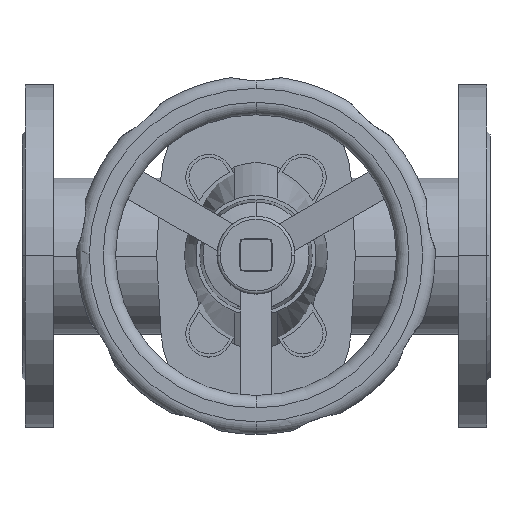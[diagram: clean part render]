
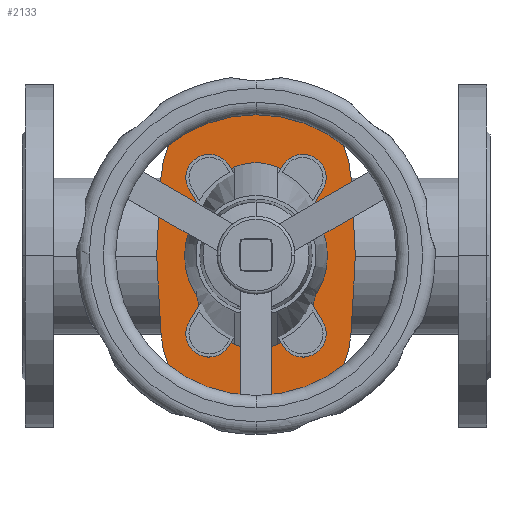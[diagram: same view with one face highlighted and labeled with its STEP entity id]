
A CAD part, top view. The second image highlights one B-rep face of the part: STEP entity #2133.
In plain terms, the highlighted planar face has unit normal (0, 0, 1).
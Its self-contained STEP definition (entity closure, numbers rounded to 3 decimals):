
#2133=ADVANCED_FACE('',(#3979),#3980,.T.);
#3979=FACE_OUTER_BOUND('',#6153,.T.);
#3980=PLANE('',#6154);
#6153=EDGE_LOOP('',(#10655,#10656,#10657,#10658,#10659,#10660,#10661,#10662,#10663,#10664));
#6154=AXIS2_PLACEMENT_3D('',#10665,#10666,#10667);
#10655=ORIENTED_EDGE('',*,*,#12036,.F.);
#10656=ORIENTED_EDGE('',*,*,#12344,.F.);
#10657=ORIENTED_EDGE('',*,*,#12113,.F.);
#10658=ORIENTED_EDGE('',*,*,#12282,.F.);
#10659=ORIENTED_EDGE('',*,*,#12094,.F.);
#10660=ORIENTED_EDGE('',*,*,#11896,.F.);
#10661=ORIENTED_EDGE('',*,*,#12121,.F.);
#10662=ORIENTED_EDGE('',*,*,#12126,.F.);
#10663=ORIENTED_EDGE('',*,*,#11825,.F.);
#10664=ORIENTED_EDGE('',*,*,#11037,.F.);
#10665=CARTESIAN_POINT('',(150.,0.006,158.0));
#10666=DIRECTION('',(0.0,0.0,1.0));
#10667=DIRECTION('',(1.0,0.0,0.0));
#11037=EDGE_CURVE('',#13102,#13103,#13104,.T.);
#11825=EDGE_CURVE('',#13103,#14306,#14308,.T.);
#11896=EDGE_CURVE('',#14403,#14404,#14405,.T.);
#12036=EDGE_CURVE('',#14596,#13102,#14597,.T.);
#12094=EDGE_CURVE('',#14404,#14664,#14665,.T.);
#12113=EDGE_CURVE('',#14685,#14687,#14688,.T.);
#12121=EDGE_CURVE('',#14698,#14403,#14699,.T.);
#12126=EDGE_CURVE('',#14306,#14698,#14704,.T.);
#12282=EDGE_CURVE('',#14664,#14685,#14885,.T.);
#12344=EDGE_CURVE('',#14687,#14596,#14950,.T.);
#13102=VERTEX_POINT('',#15896);
#13103=VERTEX_POINT('',#15897);
#13104=LINE('',#15898,#15899);
#14306=VERTEX_POINT('',#17733);
#14308=CIRCLE('',#17736,167.639);
#14403=VERTEX_POINT('',#17852);
#14404=VERTEX_POINT('',#17853);
#14405=CIRCLE('',#17854,61.);
#14596=VERTEX_POINT('',#18093);
#14597=CIRCLE('',#18094,60.99);
#14664=VERTEX_POINT('',#18178);
#14665=LINE('',#18179,#18180);
#14685=VERTEX_POINT('',#18203);
#14687=VERTEX_POINT('',#18206);
#14688=CIRCLE('',#18207,167.639);
#14698=VERTEX_POINT('',#18221);
#14699=LINE('',#18222,#18223);
#14704=CIRCLE('',#18230,167.639);
#14885=CIRCLE('',#18463,167.639);
#14950=LINE('',#18540,#18541);
#15896=CARTESIAN_POINT('',(89.112,-50.02,158.0));
#15897=CARTESIAN_POINT('',(86.779,-9.675,158.0));
#15898=CARTESIAN_POINT('',(89.112,-50.02,158.0));
#15899=VECTOR('',#19193,1.0);
#17733=CARTESIAN_POINT('',(86.5,0.,158.0));
#17736=AXIS2_PLACEMENT_3D('',#20243,#20244,#20245);
#17852=CARTESIAN_POINT('',(89.101,50.005,158.0));
#17853=CARTESIAN_POINT('',(210.899,50.005,158.0));
#17854=AXIS2_PLACEMENT_3D('',#20363,#20364,#20365);
#18093=CARTESIAN_POINT('',(210.888,-50.02,158.0));
#18094=AXIS2_PLACEMENT_3D('',#20537,#20538,#20539);
#18178=CARTESIAN_POINT('',(213.223,9.633,158.0));
#18179=CARTESIAN_POINT('',(210.899,50.005,158.0));
#18180=VECTOR('',#20605,1.0);
#18203=CARTESIAN_POINT('',(213.5,0.,158.0));
#18206=CARTESIAN_POINT('',(213.221,-9.674,158.0));
#18207=AXIS2_PLACEMENT_3D('',#20622,#20623,#20624);
#18221=CARTESIAN_POINT('',(86.777,9.633,158.0));
#18222=CARTESIAN_POINT('',(86.777,9.633,158.0));
#18223=VECTOR('',#20629,1.0);
#18230=AXIS2_PLACEMENT_3D('',#20632,#20633,#20634);
#18463=AXIS2_PLACEMENT_3D('',#20798,#20799,#20800);
#18540=CARTESIAN_POINT('',(213.221,-9.674,158.0));
#18541=VECTOR('',#20852,1.0);
#19193=DIRECTION('',(-0.058,0.998,0.0));
#20243=CARTESIAN_POINT('',(254.139,0.,158.0));
#20244=DIRECTION('',(0.0,0.0,-1.0));
#20245=DIRECTION('',(-1.0,0.0,0.0));
#20363=CARTESIAN_POINT('',(150.0,46.5,158.0));
#20364=DIRECTION('',(0.0,0.0,-1.0));
#20365=DIRECTION('',(-1.0,0.0,0.0));
#20537=CARTESIAN_POINT('',(150.,-46.5,158.0));
#20538=DIRECTION('',(0.0,0.0,-1.0));
#20539=DIRECTION('',(-1.0,0.0,0.0));
#20605=DIRECTION('',(0.057,-0.998,0.0));
#20622=CARTESIAN_POINT('',(45.861,0.,158.0));
#20623=DIRECTION('',(0.0,0.0,-1.0));
#20624=DIRECTION('',(-1.0,0.0,0.0));
#20629=DIRECTION('',(0.057,0.998,0.0));
#20632=CARTESIAN_POINT('',(254.139,0.,158.0));
#20633=DIRECTION('',(0.0,0.0,-1.0));
#20634=DIRECTION('',(-1.0,0.0,0.0));
#20798=CARTESIAN_POINT('',(45.861,0.,158.0));
#20799=DIRECTION('',(0.0,0.0,-1.0));
#20800=DIRECTION('',(-1.0,0.0,0.0));
#20852=DIRECTION('',(-0.058,-0.998,0.0));
